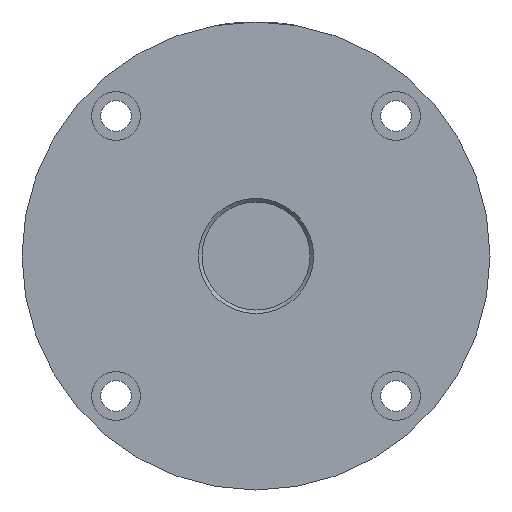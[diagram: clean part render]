
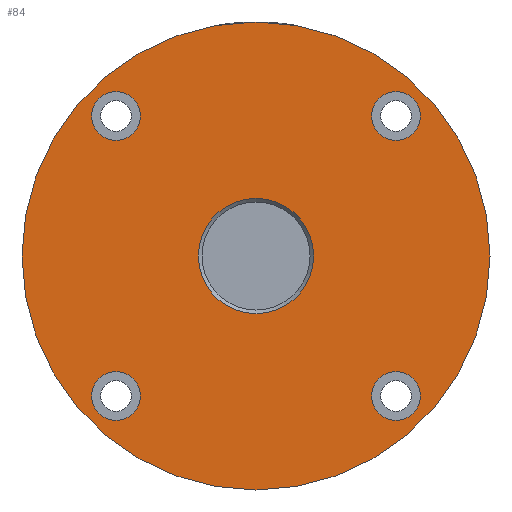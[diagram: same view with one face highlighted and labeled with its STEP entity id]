
A CAD part, left-side view. The second image highlights one B-rep face of the part: STEP entity #84.
In plain terms, the highlighted planar face has unit normal (-1, 0, 0).
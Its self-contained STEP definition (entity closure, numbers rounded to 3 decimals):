
#84 = ADVANCED_FACE( '', ( #133, #134, #135, #136, #137, #138 ), #139, .T. );
#133 = FACE_BOUND( '', #218, .T. );
#134 = FACE_BOUND( '', #219, .T. );
#135 = FACE_BOUND( '', #220, .T. );
#136 = FACE_BOUND( '', #221, .T. );
#137 = FACE_OUTER_BOUND( '', #222, .T. );
#138 = FACE_BOUND( '', #223, .T. );
#139 = PLANE( '', #224 );
#218 = EDGE_LOOP( '', ( #321 ) );
#219 = EDGE_LOOP( '', ( #322 ) );
#220 = EDGE_LOOP( '', ( #323 ) );
#221 = EDGE_LOOP( '', ( #324 ) );
#222 = EDGE_LOOP( '', ( #325 ) );
#223 = EDGE_LOOP( '', ( #326 ) );
#224 = AXIS2_PLACEMENT_3D( '', #327, #328, #329 );
#321 = ORIENTED_EDGE( '', *, *, #425, .T. );
#322 = ORIENTED_EDGE( '', *, *, #426, .T. );
#323 = ORIENTED_EDGE( '', *, *, #427, .T. );
#324 = ORIENTED_EDGE( '', *, *, #428, .T. );
#325 = ORIENTED_EDGE( '', *, *, #410, .T. );
#326 = ORIENTED_EDGE( '', *, *, #429, .F. );
#327 = CARTESIAN_POINT( '', ( 5., 0., 16. ) );
#328 = DIRECTION( '', ( -1., 0., 0. ) );
#329 = DIRECTION( '', ( 0., 0., 1. ) );
#410 = EDGE_CURVE( '', #441, #441, #442, .T. );
#425 = EDGE_CURVE( '', #469, #469, #470, .T. );
#426 = EDGE_CURVE( '', #471, #471, #472, .T. );
#427 = EDGE_CURVE( '', #473, #473, #474, .T. );
#428 = EDGE_CURVE( '', #475, #475, #476, .T. );
#429 = EDGE_CURVE( '', #477, #477, #478, .T. );
#441 = VERTEX_POINT( '', #499 );
#442 = CIRCLE( '', #500, 65. );
#469 = VERTEX_POINT( '', #621 );
#470 = CIRCLE( '', #622, 6.75 );
#471 = VERTEX_POINT( '', #623 );
#472 = CIRCLE( '', #624, 6.75 );
#473 = VERTEX_POINT( '', #625 );
#474 = CIRCLE( '', #626, 6.75 );
#475 = VERTEX_POINT( '', #627 );
#476 = CIRCLE( '', #628, 6.75 );
#477 = VERTEX_POINT( '', #629 );
#478 = CIRCLE( '', #630, 16. );
#499 = CARTESIAN_POINT( '', ( 5., 0., 65. ) );
#500 = AXIS2_PLACEMENT_3D( '', #652, #653, #654 );
#621 = CARTESIAN_POINT( '', ( 5., -38.891, -32.141 ) );
#622 = AXIS2_PLACEMENT_3D( '', #691, #692, #693 );
#623 = CARTESIAN_POINT( '', ( 5., 38.891, -32.141 ) );
#624 = AXIS2_PLACEMENT_3D( '', #694, #695, #696 );
#625 = CARTESIAN_POINT( '', ( 5., 38.891, 45.641 ) );
#626 = AXIS2_PLACEMENT_3D( '', #697, #698, #699 );
#627 = CARTESIAN_POINT( '', ( 5., -38.891, 45.641 ) );
#628 = AXIS2_PLACEMENT_3D( '', #700, #701, #702 );
#629 = CARTESIAN_POINT( '', ( 5., 0., 16. ) );
#630 = AXIS2_PLACEMENT_3D( '', #703, #704, #705 );
#652 = CARTESIAN_POINT( '', ( 5., 0., 0. ) );
#653 = DIRECTION( '', ( -1., 0., 0. ) );
#654 = DIRECTION( '', ( 0., 0., 1. ) );
#691 = CARTESIAN_POINT( '', ( 5., -38.891, -38.891 ) );
#692 = DIRECTION( '', ( 1., 0., 0. ) );
#693 = DIRECTION( '', ( 0., 0., 1. ) );
#694 = CARTESIAN_POINT( '', ( 5., 38.891, -38.891 ) );
#695 = DIRECTION( '', ( 1., 0., 0. ) );
#696 = DIRECTION( '', ( 0., 0., 1. ) );
#697 = CARTESIAN_POINT( '', ( 5., 38.891, 38.891 ) );
#698 = DIRECTION( '', ( 1., 0., 0. ) );
#699 = DIRECTION( '', ( 0., 0., 1. ) );
#700 = CARTESIAN_POINT( '', ( 5., -38.891, 38.891 ) );
#701 = DIRECTION( '', ( 1., 0., 0. ) );
#702 = DIRECTION( '', ( 0., 0., 1. ) );
#703 = CARTESIAN_POINT( '', ( 5., 0., 0. ) );
#704 = DIRECTION( '', ( -1., 0., 0. ) );
#705 = DIRECTION( '', ( 0., 0., 1. ) );
